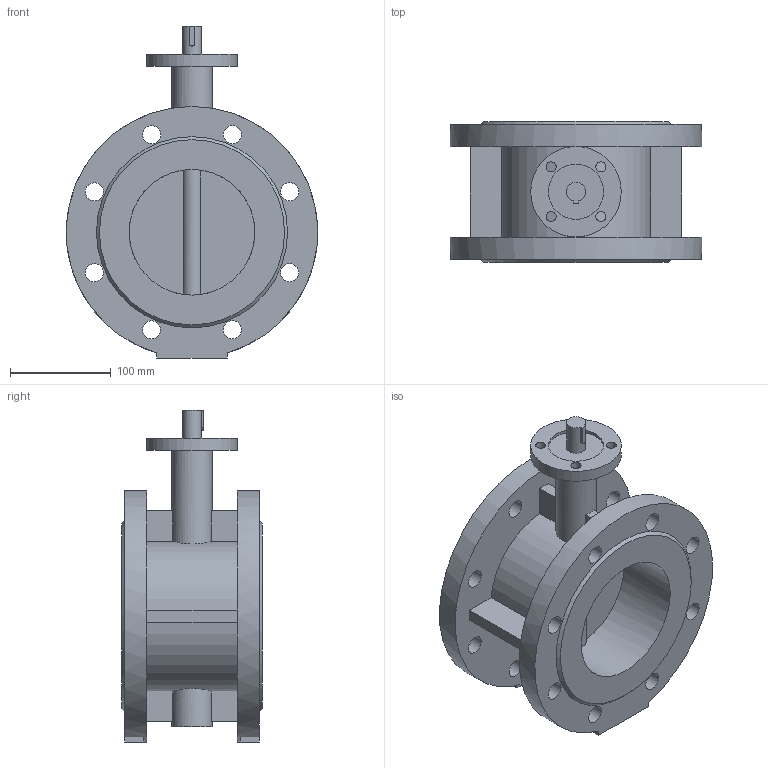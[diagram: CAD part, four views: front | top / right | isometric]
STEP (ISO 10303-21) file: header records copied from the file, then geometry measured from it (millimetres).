
FILE_DESCRIPTION(('STEP AP203'), '1');
FILE_NAME('Çàòâîð 021F.Y DN125 PN10_16 ïîä ÝÏ', '', ('UNSPECIFIED'), ('UNSPECIFIED'), 'ASCON STEP Converter 1.6', 'ASCON Math Kernel', '');
FILE_SCHEMA(('CONFIG_CONTROL_DESIGN'));
Length unit declared in the file: millimetre
Bounding box: 250 x 140 x 330 mm (x, y, z)
Volume: 2566342 mm3; surface area: 350015.3 mm2
Topology: 1 solids, 1 shells, 84 faces, 217 edges, 144 vertices
Faces by surface type: plane 46, cylinder 36, cone 2
Full cylindrical faces by diameter (mm): 10 x4, 18 x16, 18.9 x1, 40 x2, 55 x1, 90 x1, 125 x2, 250 x2
Entity records: 4088 total; most frequent: CARTESIAN_POINT 1299, DIRECTION 429, ORIENTED_EDGE 372, EDGE_CURVE 186, AXIS2_PLACEMENT_3D 169, EDGE_LOOP 164, VERTEX_POINT 144, FACE_BOUND 109
